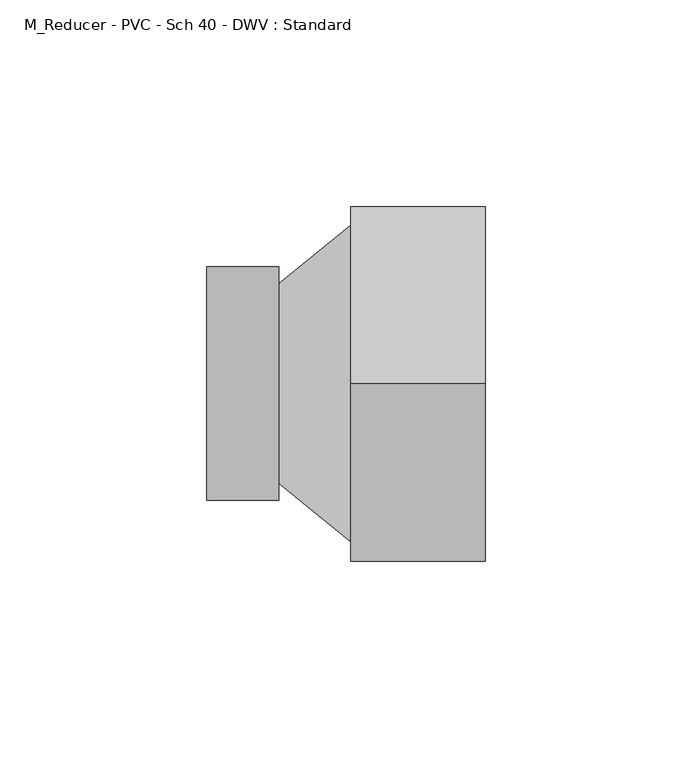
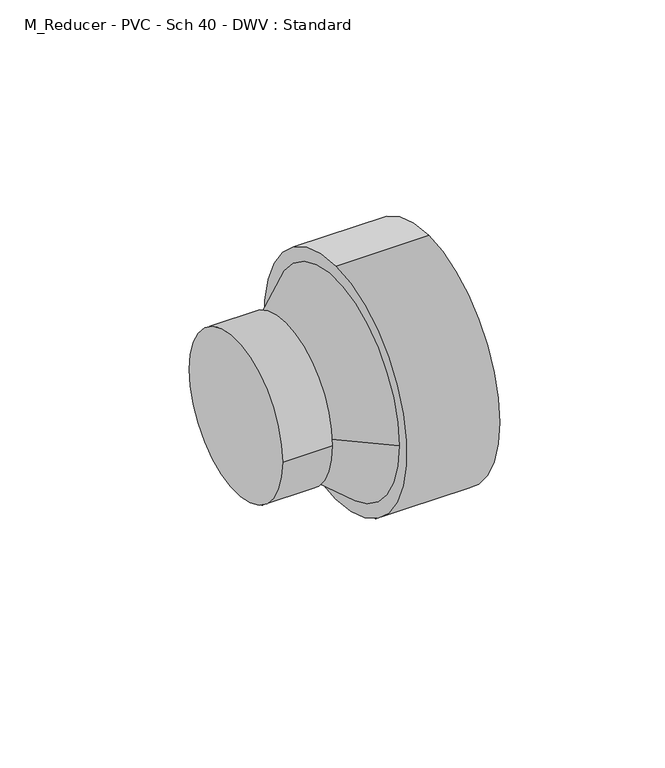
"""IFC4 building model written with IfcOpenShell, lengths in millimetres: pipe fitting geometry, M_Reducer - PVC - Sch 40 - DWV : Standard."""

from ifc_helpers import new_model, si_unit, frame, origin, place, context, project, spatial, polyline, circle_curve, source, transform, mapped, element, save
from ifc_brep_helpers import plane_surface, cylinder_surface, revolved_surface, advanced_brep


def m_reducer_pvc_sch_40_dwv_standard_391ccf0e(model_context):
    return source(origin(), model_context, "Body", "AdvancedBrep", [
        advanced_brep(
        [(0.0, -28.2829, 0.0), (0.0, 28.2829, 0.0), (17.4498, -28.2829, 0.0), (17.4498, 28.2829, 0.0), (17.4498, 24.13, 0.0), (17.4498, -24.13, 0.0), (34.9460938, 38.3640625, 0.0), (34.9460937, -38.3640625, 0.0), (34.9460938, 0.0, 43.0871094), (34.9460938, 0.0, -43.0871094), (67.4460938, 0.0, 43.0871094), (67.4460938, 0.0, -43.0871094)],
        [
            (0, 1, circle_curve(frame((0.0, 0.0, 0.0), z_axis=(-1.0, 0.0, 0.0), x_axis=(0.0, 1.0, 0.0)), 28.2829)),
            (1, 0, circle_curve(frame((0.0, 0.0, 0.0), z_axis=(-1.0, 0.0, 0.0), x_axis=(0.0, 1.0, 0.0)), 28.2829)),
            (2, 3, circle_curve(frame((17.4498, 0.0, 0.0), z_axis=(1.0, 0.0, 0.0), x_axis=(0.0, 1.0, 0.0)), 28.2829)),
            (3, 2, circle_curve(frame((17.4498, 0.0, 0.0), z_axis=(1.0, 0.0, 0.0), x_axis=(0.0, 1.0, 0.0)), 28.2829)),
            (4, 5, circle_curve(frame((17.4498, 0.0, 0.0), z_axis=(-1.0, 0.0, 0.0), x_axis=(0.0, -1.0, 0.0)), 24.13)),
            (5, 4, circle_curve(frame((17.4498, 0.0, 0.0), z_axis=(-1.0, 0.0, 0.0), x_axis=(0.0, 1.0, 0.0)), 24.13)),
            (0, 2),
            (3, 1),
            (4, 6),
            (6, 7, circle_curve(frame((34.9460938, 0.0, 0.0), z_axis=(-1.0, 0.0, 0.0), x_axis=(0.0, -1.0, 0.0)), 38.3640625)),
            (7, 5),
            (7, 6, circle_curve(frame((34.9460938, 0.0, 0.0), z_axis=(-1.0, 0.0, 0.0), x_axis=(0.0, 1.0, 0.0)), 38.3640625)),
            (8, 9, circle_curve(frame((34.9460938, 0.0, 0.0), z_axis=(-1.0, 0.0, 0.0), x_axis=(0.0, 0.0, -1.0)), 43.0871094)),
            (9, 8, circle_curve(frame((34.9460938, 0.0, 0.0), z_axis=(-1.0, 0.0, 0.0), x_axis=(0.0, 0.0, -1.0)), 43.0871094)),
            (10, 11, circle_curve(frame((67.4460938, 0.0, 0.0), z_axis=(1.0, 0.0, 0.0), x_axis=(0.0, 0.0, -1.0)), 43.0871094)),
            (11, 10, circle_curve(frame((67.4460938, 0.0, 0.0), z_axis=(1.0, 0.0, 0.0), x_axis=(0.0, 0.0, -1.0)), 43.0871094)),
            (8, 10),
            (11, 9),
        ],
        [
            plane_surface(frame((0.0, 0.0, 0.0), z_axis=(-1.0, 0.0, 0.0), x_axis=(0.0, 0.0, 1.0))),
            plane_surface(frame((17.4498, 0.0, 0.0), z_axis=(1.0, 0.0, 0.0), x_axis=(0.0, 0.0, 1.0))),
            cylinder_surface(frame((0.0, 0.0, 0.0), z_axis=(-1.0, 0.0, 0.0), x_axis=(0.0, 1.0, 0.0)), 28.2829),
            revolved_surface(polyline([(17.449799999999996, 24.129999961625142, 0.0), (34.9460938, 38.3640625, 0.0)]), (-12.21043, 0.0, 0.0), (1.0, 0.0, 0.0)),
            plane_surface(frame((34.9460938, 0.0, 0.0), z_axis=(-1.0, 0.0, 0.0), x_axis=(0.0, 1.0, 0.0))),
            plane_surface(frame((67.4460938, 0.0, 0.0), z_axis=(1.0, 0.0, 0.0), x_axis=(0.0, 1.0, 0.0))),
            cylinder_surface(frame((34.9460938, 0.0, 0.0), z_axis=(-1.0, 0.0, 0.0), x_axis=(0.0, 0.0, -1.0)), 43.0871094),
        ],
        [
            (0, [[1, 2]]),
            (1, [[3, 4], [5, 6]]),
            (2, [[-1, 7, -4, 8]]),
            (2, [[-2, -8, -3, -7]]),
            (3, [[9, 10, 11, -5]]),
            (3, [[-9, -6, -11, 12]]),
            (4, [[13, 14], [-10, -12]]),
            (5, [[15, 16]]),
            (6, [[-13, 17, -16, 18]]),
            (6, [[-14, -18, -15, -17]]),
        ],
    ),
    ])


if __name__ == "__main__":
    model = new_model("IFC4")
    model_context = context("Model", 3, world=origin())
    ifc_project = project(units=[si_unit("LENGTHUNIT", "METRE", prefix="MILLI")], contexts=[model_context])
    site = spatial("IfcSite", under=ifc_project)
    building = spatial("IfcBuilding", under=site)
    placement = place(None, origin())
    m_reducer_pvc_sch_40_dwv_standard_shape = m_reducer_pvc_sch_40_dwv_standard_391ccf0e(model_context)
    element("IfcPipeFitting", 1, ObjectType="M_Reducer - PVC - Sch 40 - DWV : Standard", at=placement, inside=building, context=model_context, shape_type="MappedRepresentation", body=[
        mapped(m_reducer_pvc_sch_40_dwv_standard_shape, transform((0.0, 0.0, 0.0), x_axis=(1.0, 0.0, 0.0), y_axis=(0.0, 1.0, 0.0), z_axis=(0.0, 0.0, 1.0))),
    ])
    save(model, "model.ifc")
